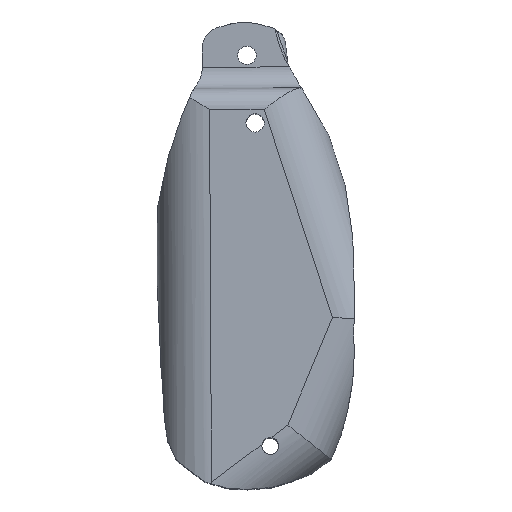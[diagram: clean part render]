
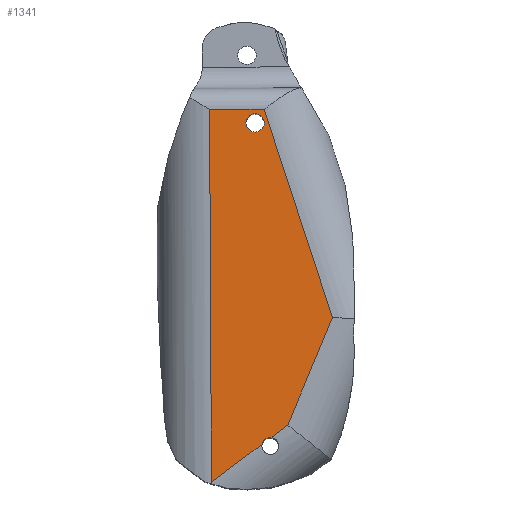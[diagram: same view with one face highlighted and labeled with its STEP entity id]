
A CAD part, top view. The second image highlights one B-rep face of the part: STEP entity #1341.
In plain terms, the highlighted planar face has unit normal (0, 0, 1).
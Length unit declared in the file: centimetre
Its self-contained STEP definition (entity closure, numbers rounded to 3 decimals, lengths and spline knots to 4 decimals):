
#328=VERTEX_POINT('',#2666);
#329=VERTEX_POINT('',#2667);
#330=VERTEX_POINT('',#2671);
#331=VERTEX_POINT('',#2673);
#335=VERTEX_POINT('',#2684);
#359=VERTEX_POINT('',#2767);
#367=VERTEX_POINT('',#2800);
#430=VERTEX_POINT('',#3167);
#554=EDGE_CURVE('',#328,#329,#1757,.T.);
#556=EDGE_CURVE('',#330,#331,#1539,.T.);
#561=EDGE_CURVE('',#331,#328,#1542,.T.);
#562=EDGE_CURVE('',#329,#335,#1543,.T.);
#601=EDGE_CURVE('',#335,#359,#1558,.T.);
#615=EDGE_CURVE('',#359,#367,#1565,.T.);
#624=EDGE_CURVE('',#367,#330,#1568,.T.);
#714=EDGE_CURVE('',#430,#430,#1772,.T.);
#1087=ORIENTED_EDGE('',*,*,#556,.F.);
#1088=ORIENTED_EDGE('',*,*,#624,.F.);
#1089=ORIENTED_EDGE('',*,*,#615,.F.);
#1090=ORIENTED_EDGE('',*,*,#601,.F.);
#1091=ORIENTED_EDGE('',*,*,#562,.F.);
#1092=ORIENTED_EDGE('',*,*,#554,.F.);
#1093=ORIENTED_EDGE('',*,*,#561,.F.);
#1094=ORIENTED_EDGE('',*,*,#714,.F.);
#1189=EDGE_LOOP('',(#1087,#1088,#1089,#1090,#1091,#1092,#1093));
#1190=EDGE_LOOP('',(#1094));
#1267=FACE_BOUND('',#1189,.T.);
#1268=FACE_BOUND('',#1190,.T.);
#1341=ADVANCED_FACE('',(#1267,#1268),#2306,.T.);
#1539=LINE('',#2672,#2182);
#1542=LINE('',#2682,#2185);
#1543=LINE('',#2683,#2186);
#1558=LINE('',#2766,#2201);
#1565=LINE('',#2799,#2208);
#1568=LINE('',#2833,#2211);
#1757=CIRCLE('',#1969,1.1969);
#1772=CIRCLE('',#2092,1.3088);
#1969=AXIS2_PLACEMENT_3D('',#2668,#3330,#3331);
#2091=AXIS2_PLACEMENT_3D('',#3165,#3623,$);
#2092=AXIS2_PLACEMENT_3D('',#3166,#3624,#3625);
#2182=VECTOR('',#3336,1.);
#2185=VECTOR('',#3345,1.);
#2186=VECTOR('',#3346,1.);
#2201=VECTOR('',#3424,1.);
#2208=VECTOR('',#3450,1.);
#2211=VECTOR('',#3465,1.);
#2306=PLANE('',#2091);
#2666=CARTESIAN_POINT('',(204.1027,101.4627,50.8));
#2667=CARTESIAN_POINT('',(202.8319,100.5141,50.8));
#2668=CARTESIAN_POINT('',(204.0036,100.27,50.8));
#2671=CARTESIAN_POINT('',(212.9294,118.6781,50.8));
#2672=CARTESIAN_POINT('',(210.5196,112.8945,50.8));
#2673=CARTESIAN_POINT('',(206.5029,103.2544,50.8));
#2682=CARTESIAN_POINT('',(211.2724,106.8147,50.8));
#2683=CARTESIAN_POINT('',(211.2724,106.8147,50.8));
#2684=CARTESIAN_POINT('',(195.5633,95.0883,50.8));
#2766=CARTESIAN_POINT('',(195.4144,124.884,50.8));
#2767=CARTESIAN_POINT('',(195.2961,148.5345,50.8));
#2799=CARTESIAN_POINT('',(244.1176,148.7786,50.8));
#2800=CARTESIAN_POINT('',(203.1249,148.5736,50.8));
#2833=CARTESIAN_POINT('',(207.3242,135.7692,50.8));
#3165=CARTESIAN_POINT('',(201.5098,126.353,50.8));
#3166=CARTESIAN_POINT('',(201.82,146.6088,50.8));
#3167=CARTESIAN_POINT('',(203.1288,146.6088,50.8));
#3330=DIRECTION('',(0.,0.,1.));
#3331=DIRECTION('',(1.197,0.,0.));
#3336=DIRECTION('',(-0.385,-0.923,0.));
#3345=DIRECTION('',(-0.801,-0.598,0.));
#3346=DIRECTION('',(-0.801,-0.598,0.));
#3424=DIRECTION('',(-0.005,1.,0.));
#3450=DIRECTION('',(1.,0.005,0.));
#3465=DIRECTION('',(0.312,-0.95,0.));
#3623=DIRECTION('',(0.,0.,1.));
#3624=DIRECTION('',(0.,0.,1.));
#3625=DIRECTION('',(1.309,0.,0.));
